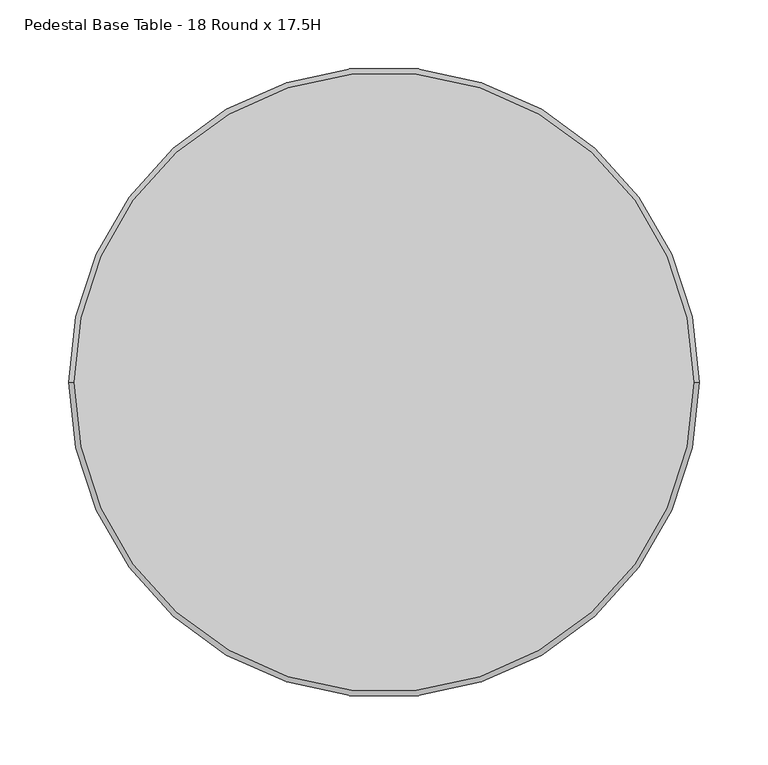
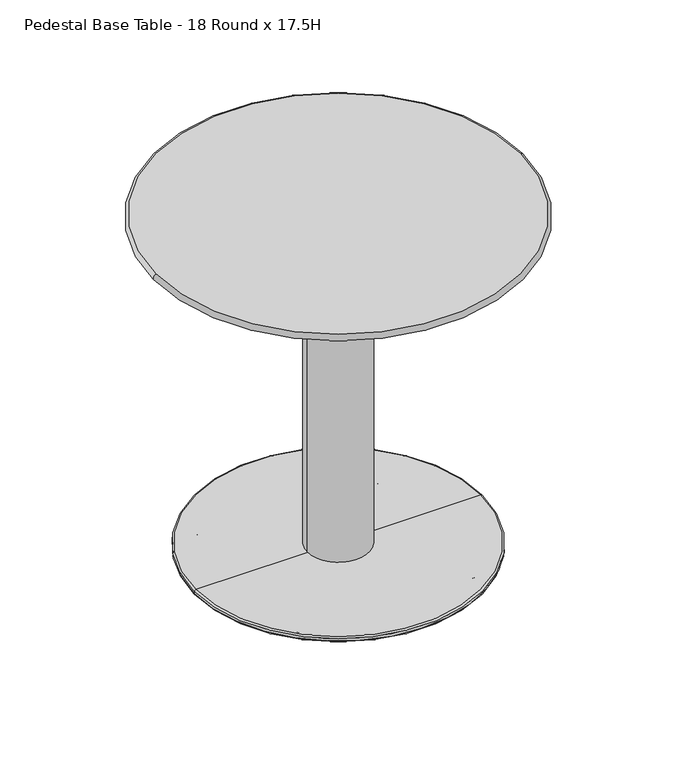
"""IFC4 building model written with IfcOpenShell, lengths in millimetres: furniture geometry, Integra - Coastal Collection - Coastal Metal Tables - Freestanding Table : Pedestal Base Table - 18 Round x 17.5H."""

from ifc_helpers import new_model, si_unit, point, frame, origin, origin_2d, place, context, project, spatial, circle_curve, ellipse_curve, trimmed, segment, composite_curve, outline, extrude, source, transform, mapped, element, save
from ifc_brep_helpers import plane_surface, cylinder_surface, revolved_surface, advanced_brep


def pedestal_base_table_18_round_x_17_5h_f57ef465(model_context):
    return source(origin(), model_context, "Body", "SolidModel", [
        advanced_brep(
        [(177.8, 0.0, 14.2991915), (-177.8, 0.0, 14.2991915), (-176.2125, 0.0, 15.8866915), (176.2125, 0.0, 15.8866915), (177.8, 0.0, 11.1241915), (-177.8, 0.0, 11.1241915), (176.2125, 0.0, 9.5366915), (-176.2125, 0.0, 9.5366915), (0.0, 0.0, 9.5366915), (0.0, 0.0, 15.8866915)],
        [
            (0, 1, circle_curve(frame((0.0, 0.0, 14.2991915), z_axis=(0.0, 0.0, 1.0), x_axis=(-1.0, 0.0, 0.0)), 177.8)),
            (1, 2, circle_curve(frame((-176.2125, 0.0, 14.2991915), z_axis=(0.0, 1.0, 0.0), x_axis=(1.0, 0.0, 0.0)), 1.5875)),
            (2, 3, circle_curve(frame((0.0, 0.0, 15.8866915), z_axis=(0.0, 0.0, -1.0), x_axis=(-1.0, 0.0, 0.0)), 176.2125)),
            (3, 0, circle_curve(frame((176.2125, 0.0, 14.2991915), z_axis=(0.0, 1.0, 0.0), x_axis=(-1.0, 0.0, 0.0)), 1.5875)),
            (1, 0, circle_curve(frame((0.0, 0.0, 14.2991915), z_axis=(0.0, 0.0, 1.0), x_axis=(-1.0, 0.0, 0.0)), 177.8)),
            (3, 2, circle_curve(frame((0.0, 0.0, 15.8866915), z_axis=(0.0, 0.0, -1.0), x_axis=(-1.0, 0.0, 0.0)), 176.2125)),
            (4, 5, circle_curve(frame((0.0, 0.0, 11.1241915), z_axis=(0.0, 0.0, 1.0), x_axis=(-1.0, 0.0, 0.0)), 177.8)),
            (5, 1),
            (0, 4),
            (5, 4, circle_curve(frame((0.0, 0.0, 11.1241915), z_axis=(0.0, 0.0, 1.0), x_axis=(-1.0, 0.0, 0.0)), 177.8)),
            (6, 7, circle_curve(frame((0.0, 0.0, 9.5366915), z_axis=(0.0, 0.0, 1.0), x_axis=(-1.0, 0.0, 0.0)), 176.2125)),
            (7, 5, circle_curve(frame((-176.2125, 0.0, 11.1241915), z_axis=(0.0, 1.0, 0.0), x_axis=(1.0, 0.0, 0.0)), 1.5875)),
            (4, 6, circle_curve(frame((176.2125, 0.0, 11.1241915), z_axis=(0.0, 1.0, 0.0), x_axis=(-1.0, 0.0, 0.0)), 1.5875)),
            (7, 6, circle_curve(frame((0.0, 0.0, 9.5366915), z_axis=(0.0, 0.0, 1.0), x_axis=(-1.0, 0.0, 0.0)), 176.2125)),
            (8, 7),
            (6, 8),
            (2, 9),
            (9, 3),
        ],
        [
            revolved_surface(trimmed(ellipse_curve(frame((-176.2125, 0.0, 14.2991915), z_axis=(0.0, -1.0, 0.0), x_axis=(1.0, 0.0, 0.0)), 1.5875, 1.5875), [point((-176.2125, 0.0, 15.8866915))], [point((-177.8, 0.0, 14.2991915))], True, "CARTESIAN"), (0.0, 0.0, 15.8866915), (0.0, 0.0, -1.0)),
            cylinder_surface(frame((0.0, 0.0, 15.8866915), z_axis=(0.0, 0.0, -1.0), x_axis=(-1.0, 0.0, 0.0)), 177.8),
            revolved_surface(trimmed(ellipse_curve(frame((-176.2125, 0.0, 11.1241915), z_axis=(0.0, -1.0, 0.0), x_axis=(1.0, 0.0, 0.0)), 1.5875, 1.5875), [point((-177.8, 0.0, 11.1241915))], [point((-176.2125, 0.0, 9.5366915))], True, "CARTESIAN"), (0.0, 0.0, 15.8866915), (0.0, 0.0, -1.0)),
            plane_surface(frame((0.0, 0.0, 9.5366915), z_axis=(0.0, 0.0, -1.0), x_axis=(-1.0, 0.0, 0.0))),
            plane_surface(frame((0.0, 0.0, 15.8866915), z_axis=(0.0, 0.0, 1.0), x_axis=(-1.0, 0.0, 0.0))),
        ],
        [
            (0, [[1, 2, 3, 4]]),
            (0, [[5, -4, 6, -2]]),
            (1, [[7, 8, -1, 9]]),
            (1, [[10, -9, -5, -8]]),
            (2, [[11, 12, -7, 13]]),
            (2, [[14, -13, -10, -12]]),
            (3, [[15, -11, 16]]),
            (3, [[-16, -14, -15]]),
            (4, [[-3, 17, 18]]),
            (4, [[-6, -18, -17]]),
        ],
    ),
        extrude(outline(composite_curve([segment(trimmed(circle_curve(origin_2d(), 38.1), [point((-38.1, 0.0))], [point((38.1, 0.0))], False, "CARTESIAN"), True, "CONTINUOUS"), segment(trimmed(circle_curve(origin_2d(), 38.1), [point((38.1, 0.0))], [point((-38.1, 0.0))], False, "CARTESIAN"), True, "CONTINUOUS")], self_intersect=False)), frame((0.0, 0.0, 15.8866915), z_axis=(0.0, 0.0, 1.0), x_axis=(1.0, 0.0, 0.0)), (0.0, 0.0, 1.0), 409.5633025),
        advanced_brep(
        [(-203.184015, 0.0, 431.7999939), (203.184015, 0.0, 431.7999939), (224.6380192, 0.0, 444.5), (-224.6380192, 0.0, 444.5), (226.3187402, 0.0, 436.9501969), (-226.3187402, 0.0, 436.9501969)],
        [
            (0, 1, circle_curve(frame((0.0, 0.0, 431.7999939), z_axis=(0.0, 0.0, -1.0), x_axis=(1.0, 0.0, 0.0)), 203.184015)),
            (1, 0, circle_curve(frame((0.0, 0.0, 431.7999939), z_axis=(0.0, 0.0, -1.0), x_axis=(-1.0, 0.0, 0.0)), 203.184015)),
            (2, 3, circle_curve(frame((0.0, 0.0, 444.5), z_axis=(0.0, 0.0, 1.0), x_axis=(1.0, 0.0, 0.0)), 224.6380192)),
            (3, 2, circle_curve(frame((0.0, 0.0, 444.5), z_axis=(0.0, 0.0, 1.0), x_axis=(-1.0, 0.0, 0.0)), 224.6380192)),
            (2, 4, circle_curve(frame((224.6380192, 0.0, 440.5380192), z_axis=(0.0, 1.0, 0.0), x_axis=(-1.0, 0.0, 0.0)), 3.9619808)),
            (4, 5, circle_curve(frame((0.0, 0.0, 436.9501969), z_axis=(0.0, 0.0, 1.0), x_axis=(1.0, 0.0, 0.0)), 226.3187402)),
            (5, 3, circle_curve(frame((-224.6380192, 0.0, 440.5380192), z_axis=(0.0, 1.0, 0.0), x_axis=(1.0, 0.0, 0.0)), 3.9619808)),
            (4, 1, circle_curve(frame((203.184015, 0.0, 486.3357186), z_axis=(0.0, 1.0, 0.0), x_axis=(-1.0, 0.0, 0.0)), 54.5357246)),
            (0, 5, circle_curve(frame((-203.184015, 0.0, 486.3357186), z_axis=(0.0, 1.0, 0.0), x_axis=(1.0, 0.0, 0.0)), 54.5357246)),
            (5, 4, circle_curve(frame((0.0, 0.0, 436.9501969), z_axis=(0.0, 0.0, 1.0), x_axis=(-1.0, 0.0, 0.0)), 226.3187402)),
        ],
        [
            plane_surface(frame((-25.4, 0.0, 431.7999939), z_axis=(0.0, 0.0, -1.0), x_axis=(0.0, 1.0, 0.0))),
            plane_surface(frame((-25.4, 0.0, 444.5), z_axis=(0.0, 0.0, 1.0), x_axis=(0.0, -1.0, 0.0))),
            revolved_surface(trimmed(ellipse_curve(frame((224.6380192, 0.0, 440.5380192), z_axis=(0.0, -1.0, 0.0), x_axis=(-1.0, 0.0, 0.0)), 3.9619808, 3.9619808), [point((226.3187402, 0.0, 436.9501969))], [point((224.6380192, 0.0, 444.5))], True, "CARTESIAN"), (0.0, 0.0, 444.5), (0.0, 0.0, 1.0)),
            revolved_surface(trimmed(ellipse_curve(frame((203.184015, 0.0, 486.3357186), z_axis=(0.0, -1.0, 0.0), x_axis=(-1.0, 0.0, 0.0)), 54.5357246, 54.5357246), [point((203.184015, 0.0, 431.7999939))], [point((226.3187402, 0.0, 436.9501969))], True, "CARTESIAN"), (0.0, 0.0, 444.5), (0.0, 0.0, 1.0)),
            revolved_surface(trimmed(ellipse_curve(frame((-224.6380192, 0.0, 440.5380192), z_axis=(0.0, 1.0, 0.0), x_axis=(1.0, 0.0, 0.0)), 3.9619808, 3.9619808), [point((-226.3187402, 0.0, 436.9501969))], [point((-224.6380192, 0.0, 444.5))], True, "CARTESIAN"), (0.0, 0.0, 444.5), (0.0, 0.0, 1.0)),
            revolved_surface(trimmed(ellipse_curve(frame((-203.184015, 0.0, 486.3357186), z_axis=(0.0, 1.0, 0.0), x_axis=(1.0, 0.0, 0.0)), 54.5357246, 54.5357246), [point((-203.184015, 0.0, 431.7999939))], [point((-226.3187402, 0.0, 436.9501969))], True, "CARTESIAN"), (0.0, 0.0, 444.5), (0.0, 0.0, 1.0)),
        ],
        [
            (0, [[1, 2]]),
            (1, [[3, 4]]),
            (2, [[-3, 5, 6, 7]]),
            (3, [[-6, 8, -1, 9]]),
            (4, [[-5, -4, -7, 10]]),
            (5, [[-8, -10, -9, -2]]),
        ],
    ),
        extrude(outline(composite_curve([segment(trimmed(circle_curve(origin_2d(), 203.2), [point((-203.2, 0.0))], [point((203.2, 0.0))], False, "CARTESIAN"), True, "CONTINUOUS"), segment(trimmed(circle_curve(origin_2d(), 203.2), [point((203.2, 0.0))], [point((-203.2, 0.0))], False, "CARTESIAN"), True, "CONTINUOUS")], self_intersect=False)), frame((0.0, 0.0, 425.4499939), z_axis=(0.0, 0.0, 1.0), x_axis=(1.0, 0.0, 0.0)), (0.0, 0.0, 1.0), 6.35),
        advanced_brep(
        [(-117.2443939, 101.6, 9.5239742), (-85.9556061, 101.6, 9.5239742), (-101.6, 101.6, 9.5239742), (-107.7193939, 101.6, -0.0010258), (-95.4806061, 101.6, -0.0010258), (-101.6, 101.6, -0.0010258)],
        [
            (0, 1, circle_curve(frame((-101.6, 101.6, 9.5239742), z_axis=(0.0, 0.0, 1.0), x_axis=(1.0, 0.0, 0.0)), 15.6443939)),
            (1, 2),
            (2, 0),
            (1, 0, circle_curve(frame((-101.6, 101.6, 9.5239742), z_axis=(0.0, 0.0, 1.0), x_axis=(1.0, 0.0, 0.0)), 15.6443939)),
            (3, 4, circle_curve(frame((-101.6, 101.6, -0.0010258), z_axis=(0.0, 0.0, 1.0), x_axis=(1.0, 0.0, 0.0)), 6.1193939)),
            (4, 1, circle_curve(frame((-95.4806061, 101.6, 9.5239742), z_axis=(0.0, -1.0, 0.0), x_axis=(1.0, 0.0, 0.0)), 9.525)),
            (0, 3, circle_curve(frame((-107.7193939, 101.6, 9.5239742), z_axis=(0.0, -1.0, 0.0), x_axis=(-1.0, 0.0, 0.0)), 9.525)),
            (4, 3, circle_curve(frame((-101.6, 101.6, -0.0010258), z_axis=(0.0, 0.0, 1.0), x_axis=(1.0, 0.0, 0.0)), 6.1193939)),
            (5, 4),
            (3, 5),
        ],
        [
            plane_surface(frame((-101.6, 101.6, 9.5239742), z_axis=(0.0, 0.0, 1.0), x_axis=(1.0, 0.0, 0.0))),
            revolved_surface(trimmed(ellipse_curve(frame((-95.4806061, 101.6, 9.5239742), z_axis=(0.0, 1.0, 0.0), x_axis=(1.0, 0.0, 0.0)), 9.525, 9.525), [point((-85.9556061, 101.6, 9.5239742))], [point((-95.4806061, 101.6, -0.0010258))], True, "CARTESIAN"), (-101.6, 101.6, -0.0010258), (0.0, 0.0, -1.0)),
            plane_surface(frame((-101.6, 101.6, -0.0010258), z_axis=(0.0, 0.0, -1.0), x_axis=(1.0, 0.0, 0.0))),
        ],
        [
            (0, [[1, 2, 3]]),
            (0, [[4, -3, -2]]),
            (1, [[5, 6, -1, 7]]),
            (1, [[8, -7, -4, -6]]),
            (2, [[9, -5, 10]]),
            (2, [[-10, -8, -9]]),
        ],
    ),
        advanced_brep(
        [(-101.6, -101.6, 9.5239742), (-85.9556061, -101.6, 9.5239742), (-117.2443939, -101.6, 9.5239742), (-95.4806061, -101.6, -0.0010258), (-107.7193939, -101.6, -0.0010258), (-101.6, -101.6, -0.0010258)],
        [
            (0, 1),
            (1, 2, circle_curve(frame((-101.6, -101.6, 9.5239742), z_axis=(0.0, 0.0, 1.0), x_axis=(1.0, 0.0, 0.0)), 15.6443939)),
            (2, 0),
            (2, 1, circle_curve(frame((-101.6, -101.6, 9.5239742), z_axis=(0.0, 0.0, 1.0), x_axis=(1.0, 0.0, 0.0)), 15.6443939)),
            (1, 3, circle_curve(frame((-95.4806061, -101.6, 9.5239742), z_axis=(0.0, 1.0, 0.0), x_axis=(1.0, 0.0, 0.0)), 9.525)),
            (3, 4, circle_curve(frame((-101.6, -101.6, -0.0010258), z_axis=(0.0, 0.0, 1.0), x_axis=(1.0, 0.0, 0.0)), 6.1193939)),
            (4, 2, circle_curve(frame((-107.7193939, -101.6, 9.5239742), z_axis=(0.0, 1.0, 0.0), x_axis=(-1.0, 0.0, 0.0)), 9.525)),
            (4, 3, circle_curve(frame((-101.6, -101.6, -0.0010258), z_axis=(0.0, 0.0, 1.0), x_axis=(1.0, 0.0, 0.0)), 6.1193939)),
            (3, 5),
            (5, 4),
        ],
        [
            plane_surface(frame((-101.6, -101.6, 9.5239742), z_axis=(0.0, 0.0, 1.0), x_axis=(1.0, 0.0, 0.0))),
            revolved_surface(trimmed(ellipse_curve(frame((-95.4806061, -101.6, 9.5239742), z_axis=(0.0, -1.0, 0.0), x_axis=(1.0, 0.0, 0.0)), 9.525, 9.525), [point((-95.4806061, -101.6, -0.0010258))], [point((-85.9556061, -101.6, 9.5239742))], True, "CARTESIAN"), (-101.6, -101.6, -0.0010258), (0.0, 0.0, 1.0)),
            plane_surface(frame((-101.6, -101.6, -0.0010258), z_axis=(0.0, 0.0, -1.0), x_axis=(1.0, 0.0, 0.0))),
        ],
        [
            (0, [[1, 2, 3]]),
            (0, [[-3, 4, -1]]),
            (1, [[-2, 5, 6, 7]]),
            (1, [[-4, -7, 8, -5]]),
            (2, [[-6, 9, 10]]),
            (2, [[-8, -10, -9]]),
        ],
    ),
        advanced_brep(
        [(101.6, 101.6, 9.5239742), (85.9556061, 101.6, 9.5239742), (117.2443939, 101.6, 9.5239742), (95.4806061, 101.6, -0.0010258), (107.7193939, 101.6, -0.0010258), (101.6, 101.6, -0.0010258)],
        [
            (0, 1),
            (1, 2, circle_curve(frame((101.6, 101.6, 9.5239742), z_axis=(0.0, 0.0, 1.0), x_axis=(-1.0, 0.0, 0.0)), 15.6443939)),
            (2, 0),
            (2, 1, circle_curve(frame((101.6, 101.6, 9.5239742), z_axis=(0.0, 0.0, 1.0), x_axis=(-1.0, 0.0, 0.0)), 15.6443939)),
            (1, 3, circle_curve(frame((95.4806061, 101.6, 9.5239742), z_axis=(0.0, -1.0, 0.0), x_axis=(-1.0, 0.0, 0.0)), 9.525)),
            (3, 4, circle_curve(frame((101.6, 101.6, -0.0010258), z_axis=(0.0, 0.0, 1.0), x_axis=(-1.0, 0.0, 0.0)), 6.1193939)),
            (4, 2, circle_curve(frame((107.7193939, 101.6, 9.5239742), z_axis=(0.0, -1.0, 0.0), x_axis=(1.0, 0.0, 0.0)), 9.525)),
            (4, 3, circle_curve(frame((101.6, 101.6, -0.0010258), z_axis=(0.0, 0.0, 1.0), x_axis=(-1.0, 0.0, 0.0)), 6.1193939)),
            (3, 5),
            (5, 4),
        ],
        [
            plane_surface(frame((101.6, 101.6, 9.5239742), z_axis=(0.0, 0.0, 1.0), x_axis=(-1.0, 0.0, 0.0))),
            revolved_surface(trimmed(ellipse_curve(frame((95.4806061, 101.6, 9.5239742), z_axis=(0.0, 1.0, 0.0), x_axis=(-1.0, 0.0, 0.0)), 9.525, 9.525), [point((95.4806061, 101.6, -0.0010258))], [point((85.9556061, 101.6, 9.5239742))], True, "CARTESIAN"), (101.6, 101.6, -0.0010258), (0.0, 0.0, 1.0)),
            plane_surface(frame((101.6, 101.6, -0.0010258), z_axis=(0.0, 0.0, -1.0), x_axis=(-1.0, 0.0, 0.0))),
        ],
        [
            (0, [[1, 2, 3]]),
            (0, [[-3, 4, -1]]),
            (1, [[-2, 5, 6, 7]]),
            (1, [[-4, -7, 8, -5]]),
            (2, [[-6, 9, 10]]),
            (2, [[-8, -10, -9]]),
        ],
    ),
        advanced_brep(
        [(117.2443939, -101.6, 9.5239742), (85.9556061, -101.6, 9.5239742), (101.6, -101.6, 9.5239742), (107.7193939, -101.6, -0.0010258), (95.4806061, -101.6, -0.0010258), (101.6, -101.6, -0.0010258)],
        [
            (0, 1, circle_curve(frame((101.6, -101.6, 9.5239742), z_axis=(0.0, 0.0, 1.0), x_axis=(-1.0, 0.0, 0.0)), 15.6443939)),
            (1, 2),
            (2, 0),
            (1, 0, circle_curve(frame((101.6, -101.6, 9.5239742), z_axis=(0.0, 0.0, 1.0), x_axis=(-1.0, 0.0, 0.0)), 15.6443939)),
            (3, 4, circle_curve(frame((101.6, -101.6, -0.0010258), z_axis=(0.0, 0.0, 1.0), x_axis=(-1.0, 0.0, 0.0)), 6.1193939)),
            (4, 1, circle_curve(frame((95.4806061, -101.6, 9.5239742), z_axis=(0.0, 1.0, 0.0), x_axis=(-1.0, 0.0, 0.0)), 9.525)),
            (0, 3, circle_curve(frame((107.7193939, -101.6, 9.5239742), z_axis=(0.0, 1.0, 0.0), x_axis=(1.0, 0.0, 0.0)), 9.525)),
            (4, 3, circle_curve(frame((101.6, -101.6, -0.0010258), z_axis=(0.0, 0.0, 1.0), x_axis=(-1.0, 0.0, 0.0)), 6.1193939)),
            (5, 4),
            (3, 5),
        ],
        [
            plane_surface(frame((101.6, -101.6, 9.5239742), z_axis=(0.0, 0.0, 1.0), x_axis=(-1.0, 0.0, 0.0))),
            revolved_surface(trimmed(ellipse_curve(frame((95.4806061, -101.6, 9.5239742), z_axis=(0.0, -1.0, 0.0), x_axis=(-1.0, 0.0, 0.0)), 9.525, 9.525), [point((85.9556061, -101.6, 9.5239742))], [point((95.4806061, -101.6, -0.0010258))], True, "CARTESIAN"), (101.6, -101.6, -0.0010258), (0.0, 0.0, -1.0)),
            plane_surface(frame((101.6, -101.6, -0.0010258), z_axis=(0.0, 0.0, -1.0), x_axis=(-1.0, 0.0, 0.0))),
        ],
        [
            (0, [[1, 2, 3]]),
            (0, [[4, -3, -2]]),
            (1, [[5, 6, -1, 7]]),
            (1, [[8, -7, -4, -6]]),
            (2, [[9, -5, 10]]),
            (2, [[-10, -8, -9]]),
        ],
    ),
    ])


if __name__ == "__main__":
    model = new_model("IFC4")
    model_context = context("Model", 3, world=origin())
    ifc_project = project(units=[si_unit("LENGTHUNIT", "METRE", prefix="MILLI")], contexts=[model_context])
    site = spatial("IfcSite", under=ifc_project)
    building = spatial("IfcBuilding", under=site)
    placement = place(None, origin())
    pedestal_base_table_18_round_x_17_5h_shape = pedestal_base_table_18_round_x_17_5h_f57ef465(model_context)
    element("IfcFurniture", 1, ObjectType="Integra - Coastal Collection - Coastal Metal Tables - Freestanding Table : Pedestal Base Table - 18 Round x 17.5H", at=placement, inside=building, context=model_context, shape_type="MappedRepresentation", body=[
        mapped(pedestal_base_table_18_round_x_17_5h_shape, transform((0.0, 0.0, 0.0), x_axis=(1.0, 0.0, 0.0), y_axis=(0.0, 1.0, 0.0), z_axis=(0.0, 0.0, 1.0))),
    ])
    save(model, "model.ifc")
